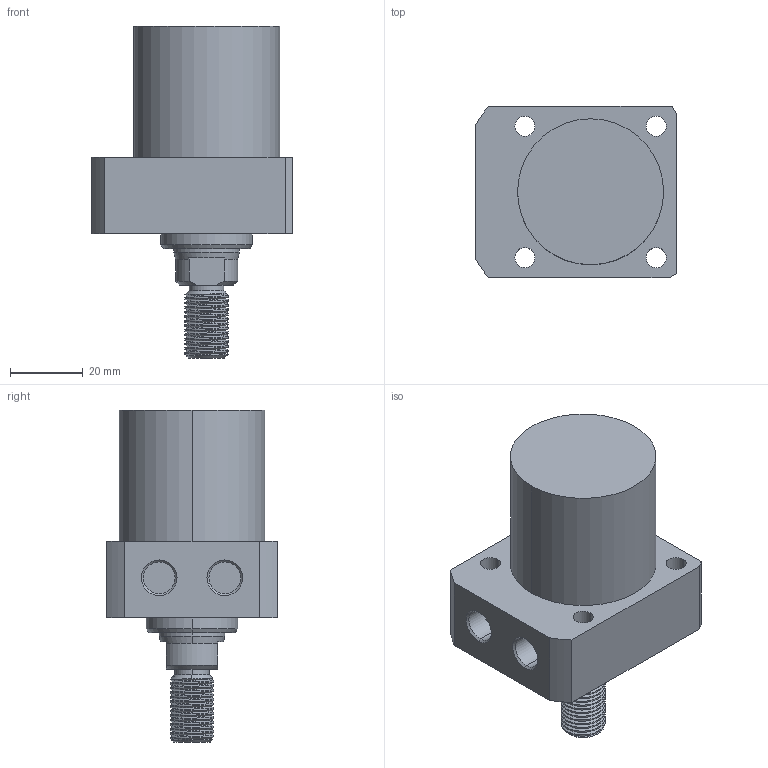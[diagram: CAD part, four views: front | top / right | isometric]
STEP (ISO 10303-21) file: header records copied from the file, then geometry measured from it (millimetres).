
FILE_DESCRIPTION (( 'STEP AP214' ), '1' );
FILE_NAME ('CLLR-040CT-025.STEP', '2020-01-08T10:46:12', ( 'Windows' ), ( 'Microsoft' ), 'SwSTEP 2.0', 'SolidWorks 2015', '' );
FILE_SCHEMA (( 'AUTOMOTIVE_DESIGN' ));
Length unit declared in the file: millimetre
Products named in the file (1): CLLR-040CT-025
Bounding box: 55 x 47 x 91 mm (x, y, z)
Volume: 101286.4 mm3; surface area: 17851.9 mm2
Topology: 1 solids, 1 shells, 93 faces, 237 edges, 154 vertices
Faces by surface type: cylinder 56, plane 20, cone 15, bspline 2
Entity records: 4515 total; most frequent: CARTESIAN_POINT 2302, ORIENTED_EDGE 474, DIRECTION 424, EDGE_CURVE 237, AXIS2_PLACEMENT_3D 166, VERTEX_POINT 154, EDGE_LOOP 109, FACE_OUTER_BOUND 93
